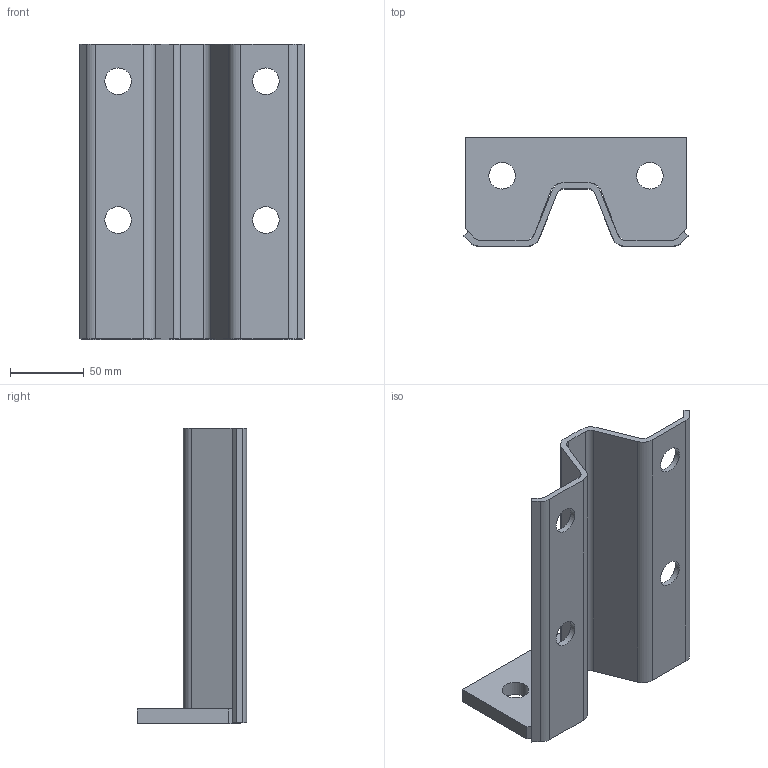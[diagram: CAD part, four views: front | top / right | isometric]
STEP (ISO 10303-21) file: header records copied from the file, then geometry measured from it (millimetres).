
FILE_DESCRIPTION(/* description */ (''),/* implementation_level */ '2;1');
FILE_NAME(/* name */ 'B245W100.stp',/* time_stamp */ '2023-07-03T11:10:44+02:00',/* author */ ('woriedl'),/* organization */ (''),/* preprocessor_version */ 'ST-DEVELOPER v19.2',/* originating_system */ 'AutoCAD Mechanical',/* authorisation */ '');
FILE_SCHEMA (('AUTOMOTIVE_DESIGN { 1 0 10303 214 3 1 1 }'));
Length unit declared in the file: centimetre
Products named in the file (1): Product
Bounding box: 151.72 x 74 x 200 mm (x, y, z)
Volume: 238677.3 mm3; surface area: 103478.4 mm2
Topology: 1 solids, 1 shells, 54 faces, 162 edges, 106 vertices
Faces by surface type: plane 30, cylinder 24
Full cylindrical faces by diameter (mm): 18 x6
Entity records: 1881 total; most frequent: ORIENTED_EDGE 324, CARTESIAN_POINT 323, DIRECTION 320, EDGE_CURVE 162, LINE 114, VECTOR 114, VERTEX_POINT 106, AXIS2_PLACEMENT_3D 103
